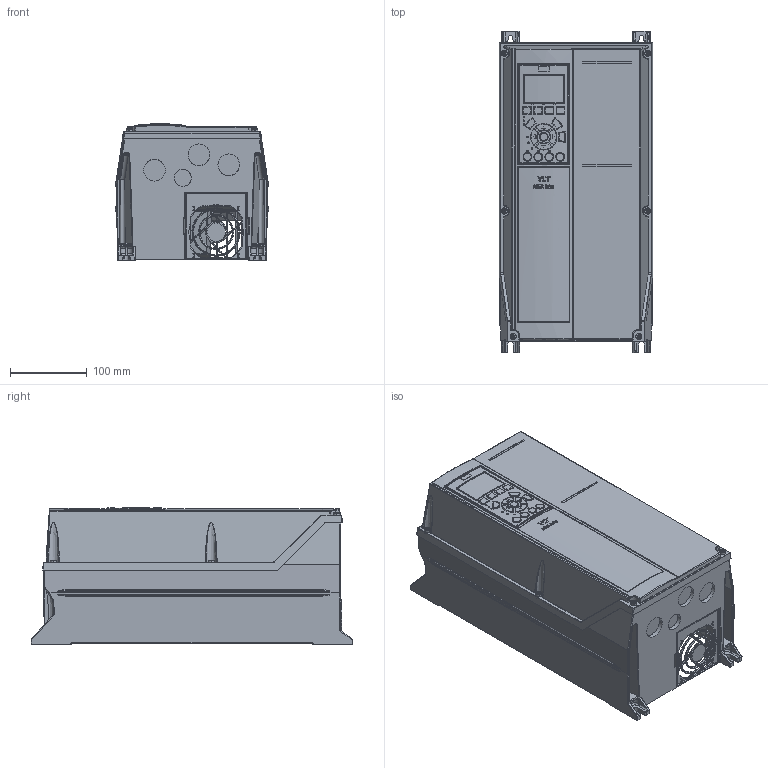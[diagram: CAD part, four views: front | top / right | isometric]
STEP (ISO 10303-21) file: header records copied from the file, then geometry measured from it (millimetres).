
FILE_DESCRIPTION((''),'2;1');
FILE_NAME('DANFOSS-FC200-A4','2011-09-21T',('cstephenkumar'),('Be-Atch INC. 1993'),'PRO/ENGINEER BY PARAMETRIC TECHNOLOGY CORPORATION, 2009360','PRO/ENGINEER BY PARAMETRIC TECHNOLOGY CORPORATION, 2009360','');
FILE_SCHEMA(('AUTOMOTIVE_DESIGN { 1 0 10303 214 1 1 1 1 }'));
Products named in the file (1): DANFOSS-FC200-A4
Bounding box: 200 x 420 x 178.05 mm (x, y, z)
Volume: 10364669 mm3; surface area: 724860.6 mm2
Topology: 1 solids, 22 shells, 3298 faces, 8246 edges, 5038 vertices
Faces by surface type: plane 1138, cylinder 904, bspline 803, torus 156, extrusion 155, cone 81, sphere 61
Entity records: 141756 total; most frequent: CARTESIAN_POINT 67320, ORIENTED_EDGE 16460, DIRECTION 12591, EDGE_CURVE 8230, VERTEX_POINT 5036, AXIS2_PLACEMENT_3D 4320, VECTOR 3951, LINE 3796
